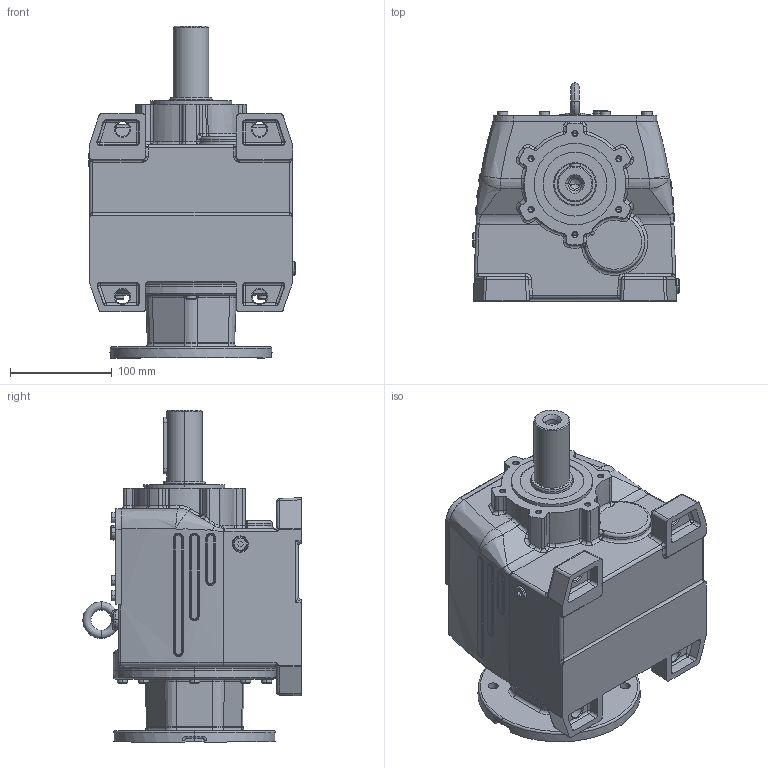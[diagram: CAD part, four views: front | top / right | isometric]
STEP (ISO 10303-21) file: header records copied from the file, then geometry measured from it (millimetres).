
FILE_DESCRIPTION (( 'STEP AP214' ), '1' );
FILE_NAME ('MTC43A-80-130.STEP', '2006-05-04T08:35:56', ( '' ), ( '' ), 'SwSTEP 2.0', 'SolidWorks 2004146', '' );
FILE_SCHEMA (( 'AUTOMOTIVE_DESIGN' ));
Length unit declared in the file: millimetre
Products named in the file (4): pøíruba130 d72 MRT80a_Výchozí; Skrin MTC4_A_MTC43A_AP80; D6912_Šroub DIN 6912 - M6x25; MTC43A-80-130
Assembly tree (8 placements, depth 2):
  MTC43A-80-130
    D6912_Šroub DIN 6912 - M6x25  x6
    pøíruba130 d72 MRT80a_Výchozí
    Skrin MTC4_A_MTC43A_AP80
Bounding box: 203 x 215 x 327 mm (x, y, z)
Volume: 6021462.4 mm3; surface area: 306070.2 mm2
Topology: 8 solids, 8 shells, 1589 faces, 3680 edges, 2118 vertices
Faces by surface type: plane 425, cylinder 407, torus 324, bspline 202, cone 177, sphere 54
Entity records: 145197 total; most frequent: CARTESIAN_POINT 109857, DIRECTION 6809, ORIENTED_EDGE 6520, EDGE_CURVE 3260, AXIS2_PLACEMENT_3D 2793, VERTEX_POINT 1950, CIRCLE 1580, EDGE_LOOP 1524
